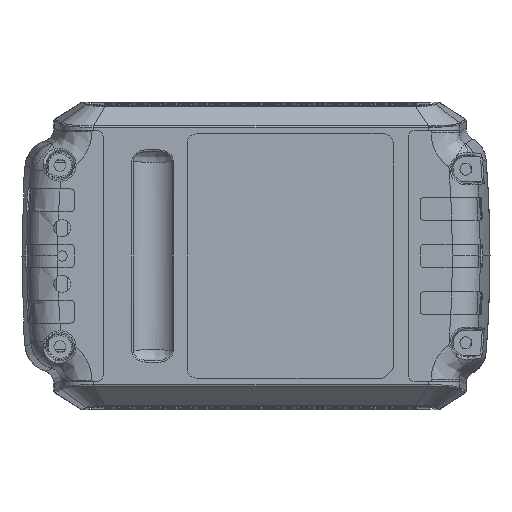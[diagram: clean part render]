
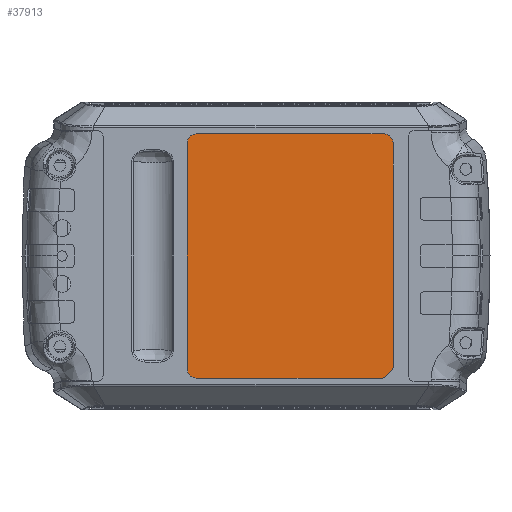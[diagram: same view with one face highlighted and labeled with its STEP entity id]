
A CAD part, front view. The second image highlights one B-rep face of the part: STEP entity #37913.
In plain terms, the highlighted planar face has unit normal (0, -1, 0).
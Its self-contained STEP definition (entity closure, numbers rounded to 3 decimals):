
#166 = VERTEX_POINT ( 'NONE', #9547 ) ;
#1755 = ORIENTED_EDGE ( 'NONE', *, *, #13166, .T. ) ;
#1833 = CARTESIAN_POINT ( 'NONE',  ( 59.193, -169.428, -32.6 ) ) ;
#1844 = EDGE_CURVE ( 'NONE', #166, #10644, #46085, .T. ) ;
#3133 = CIRCLE ( 'NONE', #43949, 2.5 ) ;
#3881 = VERTEX_POINT ( 'NONE', #30588 ) ;
#4367 = CARTESIAN_POINT ( 'NONE',  ( 61.407, -169.428, -30.386 ) ) ;
#5319 = AXIS2_PLACEMENT_3D ( 'NONE', #63780, #36100, #31719 ) ;
#7004 = VECTOR ( 'NONE', #28654, 1000. ) ;
#7671 = EDGE_CURVE ( 'NONE', #22601, #10452, #19323, .T. ) ;
#9547 = CARTESIAN_POINT ( 'NONE',  ( 8.307, -169.428, -33.6 ) ) ;
#10452 = VERTEX_POINT ( 'NONE', #46334 ) ;
#10644 = VERTEX_POINT ( 'NONE', #60681 ) ;
#10831 = CARTESIAN_POINT ( 'NONE',  ( 8.307, -169.428, -31.1 ) ) ;
#13166 = EDGE_CURVE ( 'NONE', #49756, #63181, #59318, .T. ) ;
#13204 = DIRECTION ( 'NONE',  ( 0., 0., -1. ) ) ;
#13435 = EDGE_CURVE ( 'NONE', #21117, #3881, #19303, .T. ) ;
#13721 = CARTESIAN_POINT ( 'NONE',  ( 62.407, -169.428, -30.386 ) ) ;
#13977 = FACE_OUTER_BOUND ( 'NONE', #58220, .T. ) ;
#14563 = CARTESIAN_POINT ( 'NONE',  ( 59.907, -169.428, 33.6 ) ) ;
#14794 = DIRECTION ( 'NONE',  ( 1., 0., 0. ) ) ;
#16299 = ORIENTED_EDGE ( 'NONE', *, *, #29485, .T. ) ;
#16775 = DIRECTION ( 'NONE',  ( 0.707, 0., 0.707 ) ) ;
#16808 = DIRECTION ( 'NONE',  ( 0., -1., 0. ) ) ;
#17052 = DIRECTION ( 'NONE',  ( 0., -1., 0. ) ) ;
#17140 = CARTESIAN_POINT ( 'NONE',  ( 59.9, -169.428, -33.307 ) ) ;
#19303 = LINE ( 'NONE', #41873, #53499 ) ;
#19323 = LINE ( 'NONE', #14563, #33384 ) ;
#19982 = ORIENTED_EDGE ( 'NONE', *, *, #63784, .T. ) ;
#20903 = VECTOR ( 'NONE', #54598, 1000. ) ;
#21117 = VERTEX_POINT ( 'NONE', #59472 ) ;
#21444 = DIRECTION ( 'NONE',  ( -1., 0., 0. ) ) ;
#21774 = LINE ( 'NONE', #66593, #20903 ) ;
#22601 = VERTEX_POINT ( 'NONE', #63059 ) ;
#22611 = ORIENTED_EDGE ( 'NONE', *, *, #29341, .T. ) ;
#23627 = AXIS2_PLACEMENT_3D ( 'NONE', #69401, #25632, #54434 ) ;
#25632 = DIRECTION ( 'NONE',  ( 0., -1., 0. ) ) ;
#25801 = ORIENTED_EDGE ( 'NONE', *, *, #32265, .T. ) ;
#27653 = ORIENTED_EDGE ( 'NONE', *, *, #54336, .T. ) ;
#28367 = EDGE_CURVE ( 'NONE', #56377, #49756, #51026, .T. ) ;
#28654 = DIRECTION ( 'NONE',  ( 1., 0., 0. ) ) ;
#28996 = ORIENTED_EDGE ( 'NONE', *, *, #28367, .T. ) ;
#29341 = EDGE_CURVE ( 'NONE', #3881, #166, #45149, .T. ) ;
#29485 = EDGE_CURVE ( 'NONE', #48072, #22601, #3133, .T. ) ;
#29997 = DIRECTION ( 'NONE',  ( 0., -1., 0. ) ) ;
#30588 = CARTESIAN_POINT ( 'NONE',  ( 5.807, -169.428, -31.1 ) ) ;
#31004 = CIRCLE ( 'NONE', #5319, 2.5 ) ;
#31719 = DIRECTION ( 'NONE',  ( 0., 0., 1. ) ) ;
#32265 = EDGE_CURVE ( 'NONE', #63181, #48072, #21774, .T. ) ;
#32353 = CARTESIAN_POINT ( 'NONE',  ( 62.114, -169.428, -31.093 ) ) ;
#33384 = VECTOR ( 'NONE', #41894, 1000. ) ;
#35385 = DIRECTION ( 'NONE',  ( 0., 0., -1. ) ) ;
#35966 = CARTESIAN_POINT ( 'NONE',  ( 59.907, -169.428, 31.1 ) ) ;
#36100 = DIRECTION ( 'NONE',  ( 0., -1., 0. ) ) ;
#37167 = AXIS2_PLACEMENT_3D ( 'NONE', #1833, #29997, #13204 ) ;
#37913 = ADVANCED_FACE ( 'NONE', ( #13977 ), #53694, .T. ) ;
#38435 = AXIS2_PLACEMENT_3D ( 'NONE', #4367, #16808, #59820 ) ;
#41873 = CARTESIAN_POINT ( 'NONE',  ( 5.807, -169.428, 31.1 ) ) ;
#41894 = DIRECTION ( 'NONE',  ( -1., 0., 0. ) ) ;
#43949 = AXIS2_PLACEMENT_3D ( 'NONE', #35966, #64349, #14794 ) ;
#44231 = CARTESIAN_POINT ( 'NONE',  ( 59.9, -169.428, -33.307 ) ) ;
#45020 = CARTESIAN_POINT ( 'NONE',  ( 8.307, -169.428, -33.6 ) ) ;
#45149 = CIRCLE ( 'NONE', #69630, 2.5 ) ;
#46085 = LINE ( 'NONE', #45020, #7004 ) ;
#46334 = CARTESIAN_POINT ( 'NONE',  ( 8.307, -169.428, 33.6 ) ) ;
#48072 = VERTEX_POINT ( 'NONE', #70507 ) ;
#49756 = VERTEX_POINT ( 'NONE', #32353 ) ;
#51026 = LINE ( 'NONE', #17140, #66038 ) ;
#53499 = VECTOR ( 'NONE', #35385, 1000. ) ;
#53694 = PLANE ( 'NONE',  #23627 ) ;
#54069 = ORIENTED_EDGE ( 'NONE', *, *, #1844, .T. ) ;
#54336 = EDGE_CURVE ( 'NONE', #10452, #21117, #31004, .T. ) ;
#54434 = DIRECTION ( 'NONE',  ( 1., 0., 0. ) ) ;
#54598 = DIRECTION ( 'NONE',  ( 0., 0., 1. ) ) ;
#56377 = VERTEX_POINT ( 'NONE', #44231 ) ;
#58220 = EDGE_LOOP ( 'NONE', ( #28996, #1755, #25801, #16299, #68364, #27653, #59073, #22611, #54069, #19982 ) ) ;
#59073 = ORIENTED_EDGE ( 'NONE', *, *, #13435, .T. ) ;
#59318 = CIRCLE ( 'NONE', #38435, 1. ) ;
#59472 = CARTESIAN_POINT ( 'NONE',  ( 5.807, -169.428, 31.1 ) ) ;
#59820 = DIRECTION ( 'NONE',  ( 0.707, 0., -0.707 ) ) ;
#60681 = CARTESIAN_POINT ( 'NONE',  ( 59.193, -169.428, -33.6 ) ) ;
#63059 = CARTESIAN_POINT ( 'NONE',  ( 59.907, -169.428, 33.6 ) ) ;
#63181 = VERTEX_POINT ( 'NONE', #13721 ) ;
#63780 = CARTESIAN_POINT ( 'NONE',  ( 8.307, -169.428, 31.1 ) ) ;
#63784 = EDGE_CURVE ( 'NONE', #10644, #56377, #68621, .T. ) ;
#64349 = DIRECTION ( 'NONE',  ( 0., -1., 0. ) ) ;
#66038 = VECTOR ( 'NONE', #16775, 1000. ) ;
#66593 = CARTESIAN_POINT ( 'NONE',  ( 62.407, -169.428, -30.386 ) ) ;
#68364 = ORIENTED_EDGE ( 'NONE', *, *, #7671, .T. ) ;
#68621 = CIRCLE ( 'NONE', #37167, 1. ) ;
#69401 = CARTESIAN_POINT ( 'NONE',  ( 23.407, -169.428, 0. ) ) ;
#69630 = AXIS2_PLACEMENT_3D ( 'NONE', #10831, #17052, #21444 ) ;
#70507 = CARTESIAN_POINT ( 'NONE',  ( 62.407, -169.428, 31.1 ) ) ;
